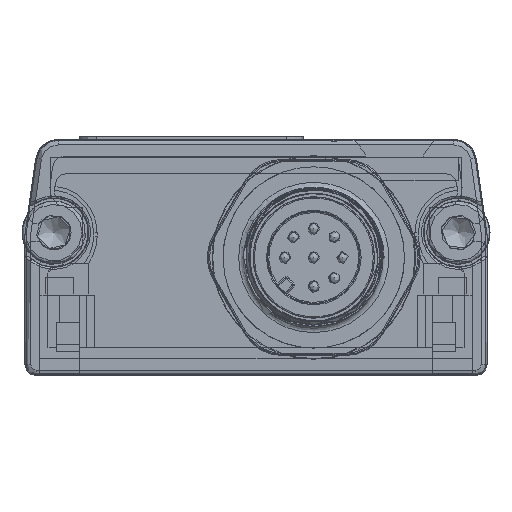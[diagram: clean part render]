
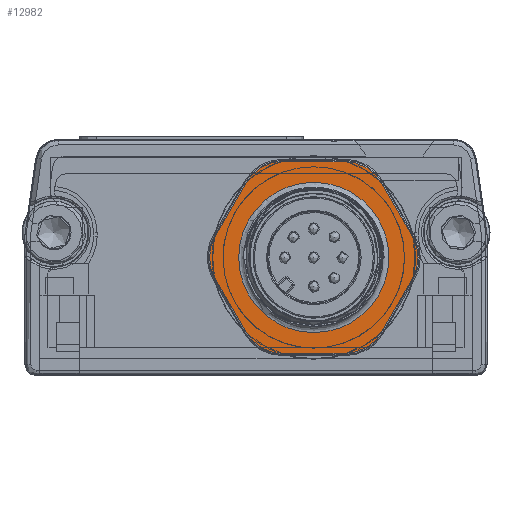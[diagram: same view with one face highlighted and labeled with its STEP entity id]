
A CAD part, front view. The second image highlights one B-rep face of the part: STEP entity #12982.
In plain terms, the highlighted planar face has unit normal (0, -1, 0).
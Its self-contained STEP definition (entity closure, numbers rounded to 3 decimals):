
#165=FACE_BOUND('',#2322,.T.);
#700=CIRCLE('',#14056,3.6);
#701=CIRCLE('',#14057,3.6);
#702=CIRCLE('',#14058,3.6);
#703=CIRCLE('',#14059,3.6);
#704=CIRCLE('',#14060,3.6);
#705=CIRCLE('',#14061,3.6);
#706=CIRCLE('',#14062,6.5);
#707=CIRCLE('',#14063,6.5);
#1106=PLANE('',#14055);
#1616=FACE_OUTER_BOUND('',#2321,.T.);
#2321=EDGE_LOOP('',(#10398,#10399,#10400,#10401,#10402,#10403,#10404,#10405,
#10406,#10407,#10408,#10409));
#2322=EDGE_LOOP('',(#10410,#10411));
#3556=LINE('',#22187,#4577);
#3557=LINE('',#22191,#4578);
#3558=LINE('',#22195,#4579);
#3559=LINE('',#22199,#4580);
#3560=LINE('',#22203,#4581);
#3561=LINE('',#22206,#4582);
#4577=VECTOR('',#16766,10.);
#4578=VECTOR('',#16769,10.);
#4579=VECTOR('',#16772,10.);
#4580=VECTOR('',#16775,10.);
#4581=VECTOR('',#16778,10.);
#4582=VECTOR('',#16781,10.);
#5687=VERTEX_POINT('',#22183);
#5688=VERTEX_POINT('',#22184);
#5689=VERTEX_POINT('',#22186);
#5690=VERTEX_POINT('',#22188);
#5691=VERTEX_POINT('',#22190);
#5692=VERTEX_POINT('',#22192);
#5693=VERTEX_POINT('',#22194);
#5694=VERTEX_POINT('',#22196);
#5695=VERTEX_POINT('',#22198);
#5696=VERTEX_POINT('',#22200);
#5697=VERTEX_POINT('',#22202);
#5698=VERTEX_POINT('',#22204);
#5699=VERTEX_POINT('',#22207);
#5700=VERTEX_POINT('',#22208);
#7330=EDGE_CURVE('',#5687,#5688,#700,.T.);
#7331=EDGE_CURVE('',#5689,#5687,#3556,.T.);
#7332=EDGE_CURVE('',#5690,#5689,#701,.T.);
#7333=EDGE_CURVE('',#5691,#5690,#3557,.T.);
#7334=EDGE_CURVE('',#5692,#5691,#702,.T.);
#7335=EDGE_CURVE('',#5693,#5692,#3558,.T.);
#7336=EDGE_CURVE('',#5694,#5693,#703,.T.);
#7337=EDGE_CURVE('',#5695,#5694,#3559,.T.);
#7338=EDGE_CURVE('',#5696,#5695,#704,.T.);
#7339=EDGE_CURVE('',#5697,#5696,#3560,.T.);
#7340=EDGE_CURVE('',#5698,#5697,#705,.T.);
#7341=EDGE_CURVE('',#5688,#5698,#3561,.T.);
#7342=EDGE_CURVE('',#5699,#5700,#706,.T.);
#7343=EDGE_CURVE('',#5700,#5699,#707,.T.);
#10398=ORIENTED_EDGE('',*,*,#7330,.F.);
#10399=ORIENTED_EDGE('',*,*,#7331,.F.);
#10400=ORIENTED_EDGE('',*,*,#7332,.F.);
#10401=ORIENTED_EDGE('',*,*,#7333,.F.);
#10402=ORIENTED_EDGE('',*,*,#7334,.F.);
#10403=ORIENTED_EDGE('',*,*,#7335,.F.);
#10404=ORIENTED_EDGE('',*,*,#7336,.F.);
#10405=ORIENTED_EDGE('',*,*,#7337,.F.);
#10406=ORIENTED_EDGE('',*,*,#7338,.F.);
#10407=ORIENTED_EDGE('',*,*,#7339,.F.);
#10408=ORIENTED_EDGE('',*,*,#7340,.F.);
#10409=ORIENTED_EDGE('',*,*,#7341,.F.);
#10410=ORIENTED_EDGE('',*,*,#7342,.F.);
#10411=ORIENTED_EDGE('',*,*,#7343,.F.);
#12982=ADVANCED_FACE('',(#1616,#165),#1106,.T.);
#14055=AXIS2_PLACEMENT_3D('',#22182,#16762,#16763);
#14056=AXIS2_PLACEMENT_3D('',#22185,#16764,#16765);
#14057=AXIS2_PLACEMENT_3D('',#22189,#16767,#16768);
#14058=AXIS2_PLACEMENT_3D('',#22193,#16770,#16771);
#14059=AXIS2_PLACEMENT_3D('',#22197,#16773,#16774);
#14060=AXIS2_PLACEMENT_3D('',#22201,#16776,#16777);
#14061=AXIS2_PLACEMENT_3D('',#22205,#16779,#16780);
#14062=AXIS2_PLACEMENT_3D('',#22209,#16782,#16783);
#14063=AXIS2_PLACEMENT_3D('',#22210,#16784,#16785);
#16762=DIRECTION('center_axis',(0.,-1.,0.));
#16763=DIRECTION('ref_axis',(-1.,0.,0.));
#16764=DIRECTION('center_axis',(0.,1.,0.));
#16765=DIRECTION('ref_axis',(-0.5,0.,-0.866));
#16766=DIRECTION('',(-1.,0.,0.));
#16767=DIRECTION('center_axis',(0.,1.,0.));
#16768=DIRECTION('ref_axis',(0.5,0.,-0.866));
#16769=DIRECTION('',(-0.5,0.,-0.866));
#16770=DIRECTION('center_axis',(0.,1.,0.));
#16771=DIRECTION('ref_axis',(1.,0.,0.));
#16772=DIRECTION('',(0.5,0.,-0.866));
#16773=DIRECTION('center_axis',(0.,1.,0.));
#16774=DIRECTION('ref_axis',(0.5,0.,0.866));
#16775=DIRECTION('',(1.,0.,0.));
#16776=DIRECTION('center_axis',(0.,1.,0.));
#16777=DIRECTION('ref_axis',(-0.5,0.,0.866));
#16778=DIRECTION('',(0.5,0.,0.866));
#16779=DIRECTION('center_axis',(0.,1.,0.));
#16780=DIRECTION('ref_axis',(-1.,0.,0.));
#16781=DIRECTION('',(-0.5,0.,0.866));
#16782=DIRECTION('center_axis',(0.,-1.,0.));
#16783=DIRECTION('ref_axis',(0.,0.,
1.));
#16784=DIRECTION('center_axis',(0.,-1.,0.));
#16785=DIRECTION('ref_axis',(0.,0.,
1.));
#22182=CARTESIAN_POINT('Origin',(9.486,-12.9,-8.973));
#22183=CARTESIAN_POINT('',(6.773,-12.9,-17.273));
#22184=CARTESIAN_POINT('',(3.655,-12.9,-15.473));
#22185=CARTESIAN_POINT('Origin',(6.773,-12.9,-13.673));
#22186=CARTESIAN_POINT('',(12.2,-12.9,-17.273));
#22187=CARTESIAN_POINT('',(7.032,-12.9,-17.273));
#22188=CARTESIAN_POINT('',(15.317,-12.9,-15.473));
#22189=CARTESIAN_POINT('Origin',(12.2,-12.9,-13.673));
#22190=CARTESIAN_POINT('',(18.031,-12.9,-10.773));
#22191=CARTESIAN_POINT('',(15.447,-12.9,-15.248));
#22192=CARTESIAN_POINT('',(18.031,-12.9,-7.173));
#22193=CARTESIAN_POINT('Origin',(14.913,-12.9,-8.973));
#22194=CARTESIAN_POINT('',(15.317,-12.9,-2.473));
#22195=CARTESIAN_POINT('',(17.901,-12.9,-6.948));
#22196=CARTESIAN_POINT('',(12.2,-12.9,-0.673));
#22197=CARTESIAN_POINT('Origin',(12.2,-12.9,-4.273));
#22198=CARTESIAN_POINT('',(6.773,-12.9,-0.673));
#22199=CARTESIAN_POINT('',(11.94,-12.9,-0.673));
#22200=CARTESIAN_POINT('',(3.655,-12.9,-2.473));
#22201=CARTESIAN_POINT('Origin',(6.773,-12.9,-4.273));
#22202=CARTESIAN_POINT('',(0.941,-12.9,-7.173));
#22203=CARTESIAN_POINT('',(3.525,-12.9,-2.698));
#22204=CARTESIAN_POINT('',(0.941,-12.9,-10.773));
#22205=CARTESIAN_POINT('Origin',(4.059,-12.9,-8.973));
#22206=CARTESIAN_POINT('',(1.071,-12.9,-10.998));
#22207=CARTESIAN_POINT('',(9.486,-12.9,-15.473));
#22208=CARTESIAN_POINT('',(2.986,-12.9,-8.973));
#22209=CARTESIAN_POINT('Origin',(9.486,-12.9,-8.973));
#22210=CARTESIAN_POINT('Origin',(9.486,-12.9,-8.973));
